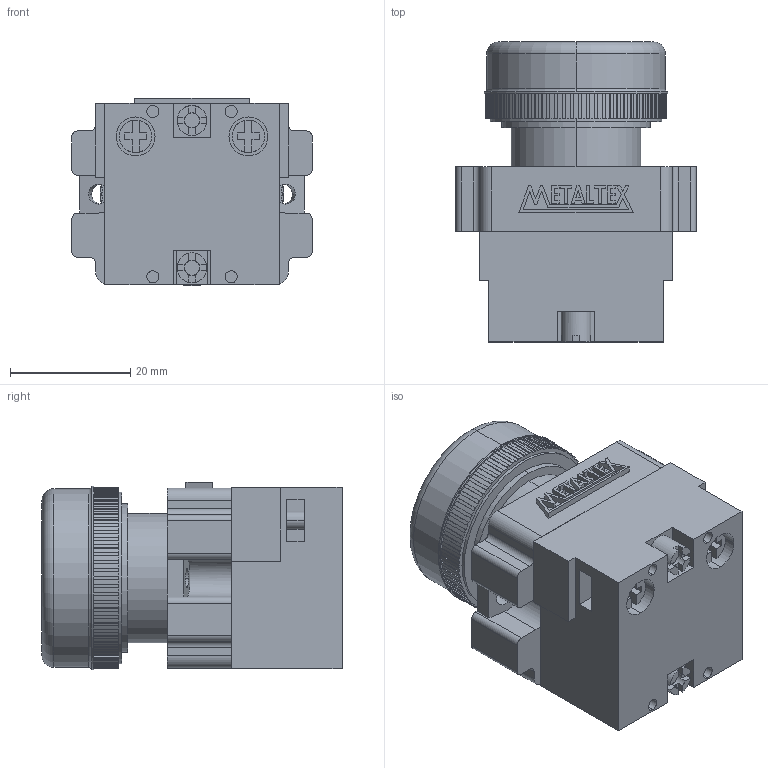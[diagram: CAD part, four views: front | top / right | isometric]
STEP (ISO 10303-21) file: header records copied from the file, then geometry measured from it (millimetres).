
FILE_DESCRIPTION (( 'STEP AP203' ), '1' );
FILE_NAME ('M20PR-BL.STEP', '2018-01-17T14:21:16', ( '' ), ( '' ), 'SwSTEP 2.0', 'SolidWorks 2012', '' );
FILE_SCHEMA (( 'CONFIG_CONTROL_DESIGN' ));
Length unit declared in the file: millimetre
Products named in the file (4): M20PR-BL; METALTEX 18,98; M20-IL; M20PR
Assembly tree (3 placements, depth 2):
  M20PR-BL
    M20PR
    M20-IL
    METALTEX 18,98
Bounding box: 40 x 49.9 x 31.2 mm (x, y, z)
Volume: 38883.2 mm3; surface area: 12057.8 mm2
Topology: 9 solids, 9 shells, 618 faces, 1699 edges, 1128 vertices
Faces by surface type: plane 379, cylinder 227, torus 12
Entity records: 20129 total; most frequent: CARTESIAN_POINT 3475, DIRECTION 3451, ORIENTED_EDGE 3398, EDGE_CURVE 1699, LINE 1179, VECTOR 1179, AXIS2_PLACEMENT_3D 1136, VERTEX_POINT 1128
